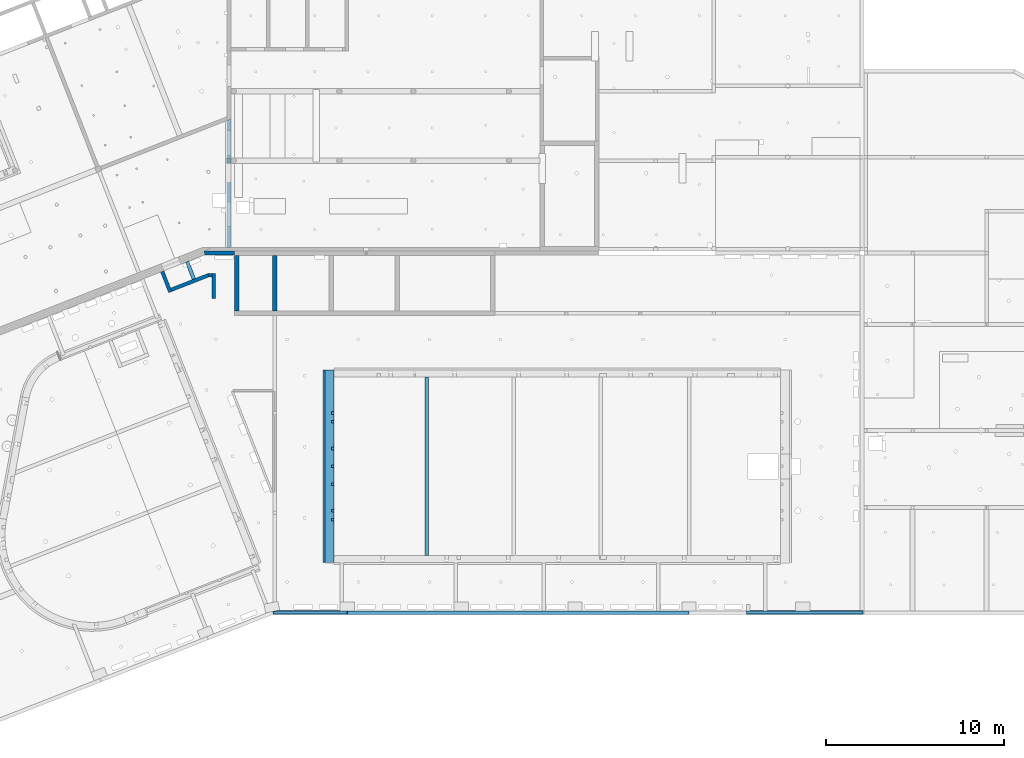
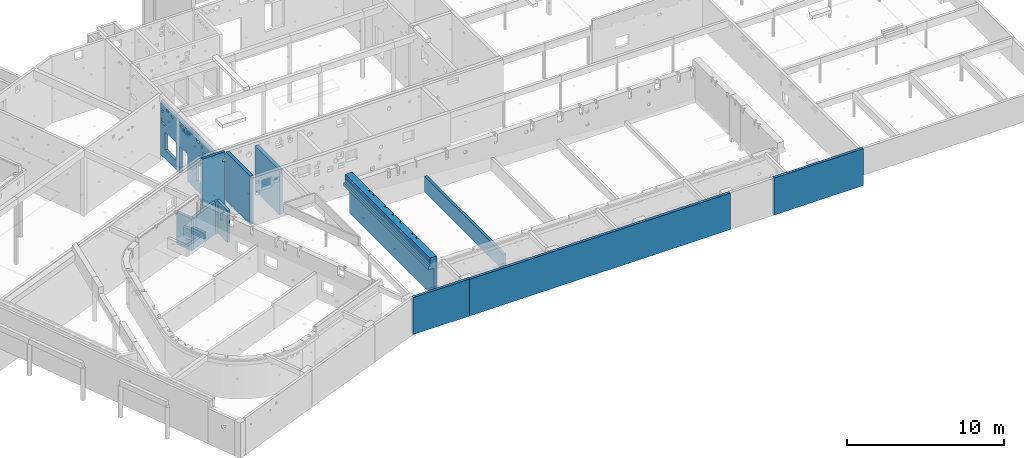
# One storey, part 18 of 28: 13 walls, 26 openings.
"""IFC2X3 building model written with IfcOpenShell, lengths in metres."""

from ifc_helpers import new_model, entity, si_unit, converted_unit, direction, frame, frame_2d, origin, origin_with_axes, place, context, subcontext, project, spatial, polyline, rectangle, outline, extrude, clip, halfspace, bounded_halfspace, material, layer, layer_set, layer_usage, element, save


model = new_model("IFC2X3")

# Units and contexts
model_context = context("Model", 3, precision=1e-05, world=origin(), true_north=direction((-0.407059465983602, -0.913401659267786)))
body_context = subcontext(model_context, "Body", "Model", "MODEL_VIEW")
ifc_project = project(units=[si_unit("LENGTHUNIT", "METRE"), si_unit("AREAUNIT", "SQUARE_METRE"), si_unit("VOLUMEUNIT", "CUBIC_METRE"), si_unit("MASSUNIT", "GRAM", prefix="KILO"), converted_unit("PLANEANGLEUNIT", "DEGREE", entity("IfcPlaneAngleMeasure", 0.0174532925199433), si_unit("PLANEANGLEUNIT", "RADIAN"), dimensions=[0, 0, 0, 0, 0, 0, 0])], contexts=[model_context])

# Site, buildings, storey
site_placement = place(None, origin())
site = spatial("IfcSite", under=ifc_project, at=site_placement, Name="Site", CompositionType="ELEMENT")
building_1_placement = place(site_placement, origin())
building_1 = spatial("IfcBuilding", under=site, at=building_1_placement, Name="Site", CompositionType="COMPLEX")
building_2_placement = place(building_1_placement, origin())
building_2 = spatial("IfcBuilding", under=building_1, at=building_2_placement, Name="Bâtiments", CompositionType="ELEMENT")
storey_placement = place(building_2_placement, frame((0.0, 0.0, -5.3)))
storey = spatial("IfcBuildingStorey", under=building_2, at=storey_placement, Name="SOUS-SOL", CompositionType="ELEMENT", Elevation=-5.3)

# Walls
ifc_material_1 = material(Name="Béton")
ifc_layer_1 = layer(ifc_material_1, 0.25)
ifc_layer_set_1 = layer_set([ifc_layer_1])
ifc_layer_usage_1 = layer_usage(ifc_layer_set_1, "AXIS2", "POSITIVE", -0.25)
wall_1_placement = place(storey_placement, frame((28.3161922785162, -8.60891711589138, 1.4), z_axis=(0.0, 0.0, 1.0), x_axis=(0.0, 1.0, 0.0)))
element("IfcWallStandardCase", 1, at=wall_1_placement, inside=storey, material=ifc_layer_usage_1, context=body_context, shape_type="SweptSolid", body=[
    extrude(outline(polyline([(0.0, -0.25), (3.12002749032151, -0.25), (3.12002749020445, 0.0), (9.94932213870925e-07, 0.0), (0.0, -0.25)])), frame((0.0, 0.25, 0.0), z_axis=(0.0, 0.0, 1.0), x_axis=(1.0, 0.0, 0.0)), (0.0, 0.0, 1.0), 3.76),
])
ifc_material_2 = material(Name="Béton")
ifc_layer_2 = layer(ifc_material_2, 0.199999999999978)
ifc_layer_set_2 = layer_set([ifc_layer_2])
ifc_layer_usage_2 = layer_usage(ifc_layer_set_2, "AXIS2", "POSITIVE", -0.199999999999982)
wall_2_placement = place(storey_placement, frame((38.7813842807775, -12.2993058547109, 2.4), z_axis=(0.0, 0.0, 1.0), x_axis=(0.0, -1.0, 0.0)))
element("IfcWallStandardCase", 2, at=wall_2_placement, inside=storey, material=ifc_layer_usage_2, context=body_context, shape_type="Clipping", body=[
    clip(extrude(rectangle(XDim=10.05, YDim=0.199999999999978, at=frame_2d((5.025, 0.0999999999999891), x_axis=(1.0, 0.0))), origin_with_axes(), (0.0, 0.0, 1.0), 1.26651671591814), halfspace(frame((5.025, 0.0999999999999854, 1.26051671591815), z_axis=(0.0, -0.0598922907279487, -0.998204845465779), x_axis=(0.0, -0.998204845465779, 0.0598922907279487)), True)),
])
ifc_material_3 = material(Name="Béton")
ifc_layer_3 = layer(ifc_material_3, 0.2)
ifc_layer_set_3 = layer_set([ifc_layer_3])
ifc_layer_usage_3 = layer_usage(ifc_layer_set_3, "AXIS2", "POSITIVE", -0.200000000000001)
wall_3_placement = place(storey_placement, frame((53.6049720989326, -25.4449220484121, 2.4), z_axis=(0.0, 0.0, 1.0), x_axis=(-1.0, 0.0, 0.0)))
element("IfcWallStandardCase", 3, at=wall_3_placement, inside=storey, material=ifc_layer_usage_3, context=body_context, shape_type="SweptSolid", body=[
    extrude(outline(polyline([(-19.1965550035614, -0.2), (-4.59005241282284e-07, -0.2), (0.0, 0.0), (-19.1965545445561, 0.0), (-19.1965550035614, -0.2)])), frame((19.1965550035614, 0.2, 0.0), z_axis=(0.0, 0.0, 1.0), x_axis=(1.0, 0.0, 0.0)), (0.0, 0.0, 1.0), 2.85),
])
ifc_material_4 = material(Name="Béton")
wall_4_placement = place(storey_placement, frame((63.4132840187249, -25.4449220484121, 2.4), z_axis=(0.0, 0.0, 1.0), x_axis=(-1.0, 0.0, 0.0)))
element("IfcWall", 4, at=wall_4_placement, inside=storey, material=ifc_material_4, context=body_context, shape_type="SweptSolid", body=[
    extrude(outline(polyline([(-6.57729758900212, -0.2), (-3.56598833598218, -0.2), (-3.56598833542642, -0.199976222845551), (-2.76598833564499, -0.199994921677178), (-2.76598833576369, -0.2), (0.0, -0.2), (-1.27525183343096e-05, 0.0), (-6.57729758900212, 0.0), (-6.57729758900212, -0.2)])), frame((6.57729758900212, 0.2, 0.0), z_axis=(0.0, 0.0, 1.0), x_axis=(1.0, 0.0, 0.0)), (0.0, 0.0, 1.0), 2.88),
    extrude(outline(polyline([(-4.188879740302, -0.2), (-0.186542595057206, -0.2), (0.0, -0.161745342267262), (-0.0580402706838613, -0.0138180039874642), (-0.0228223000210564, 0.0), (-4.18887928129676, 0.0), (-4.188879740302, -0.2)])), frame((33.1937462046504, 0.2, 0.0), z_axis=(0.0, 0.0, 1.0), x_axis=(1.0, 0.0, 0.0)), (0.0, 0.0, 1.0), 2.88),
])

# Wall, openings
ifc_material_5 = material(Name="Mur_Maconnerie")
ifc_layer_4 = layer(ifc_material_5, 0.200000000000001)
ifc_layer_set_4 = layer_set([ifc_layer_4])
ifc_layer_usage_4 = layer_usage(ifc_layer_set_4, "AXIS2", "POSITIVE", -0.2)
wall_5_placement = place(storey_placement, frame((27.6626311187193, 2.10991399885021, 0.5), z_axis=(0.0, 0.0, 1.0), x_axis=(-2.29885815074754e-06, -0.999999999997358, 0.0)))
wall_5 = element("IfcWallStandardCase", 5, at=wall_5_placement, inside=storey, material=ifc_layer_usage_4, context=body_context, shape_type="SweptSolid", body=[
    extrude(outline(polyline([(-7.12880681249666, -1.05694975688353e-12), (-4.59771629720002e-07, -1.0569497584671e-12), (-4.59771630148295e-07, 0.199999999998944), (-7.20727807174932, 0.199999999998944), (-7.12880681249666, -1.05694975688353e-12)])), frame((7.12880681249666, 1.05694975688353e-12, 0.0), z_axis=(0.0, 0.0, 1.0), x_axis=(1.0, 0.0, 0.0)), (0.0, 0.0, 1.0), 4.22),
])
opening_1_placement = place(wall_5_placement, frame((3.45351379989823, 0.200000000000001, 0.0), z_axis=(2.27373675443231e-15, -1.0, 0.0), x_axis=(0.0, 0.0, 1.0)))
element("IfcOpeningElement", 6, at=opening_1_placement, cuts=wall_5, Name="Baie de porte", ObjectType="Opening", context=body_context, shape_type="SweptSolid", body=[
    extrude(outline(polyline([(0.0, 1.03), (2.1, 1.03), (2.1, 0.0), (0.0, 0.0), (0.0, 1.03)])), origin_with_axes(), (0.0, 0.0, 1.0), 0.200000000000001),
])
opening_2_placement = place(wall_5_placement, frame((6.77880635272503, 3.87360282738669e-16, 3.51), z_axis=(4.54747350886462e-15, 1.0, 0.0), x_axis=(0.0, 0.0, 1.0)))
element("IfcOpeningElement", 7, at=opening_2_placement, cuts=wall_5, Name="EL-025", ObjectType="Opening", context=body_context, shape_type="SweptSolid", body=[
    extrude(outline(polyline([(0.0, 0.35), (0.7, 0.35), (0.7, 0.0), (0.0, 0.0), (0.0, 0.35)])), origin_with_axes(), (0.0, 0.0, 1.0), 0.200000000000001),
])
opening_3_placement = place(wall_5_placement, frame((0.299196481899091, 0.199991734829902, 3.4), z_axis=(1.13686837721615e-15, -1.0, 0.0), x_axis=(0.0, 0.0, 1.0)))
element("IfcOpeningElement", 8, at=opening_3_placement, cuts=wall_5, Name="PB-044", ObjectType="Opening", context=body_context, shape_type="SweptSolid", body=[
    extrude(outline(polyline([(0.0, 0.3), (0.25, 0.3), (0.25, 0.0), (0.0, 0.0), (0.0, 0.3)])), origin_with_axes(), (0.0, 0.0, 1.0), 0.200000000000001),
])
opening_4_placement = place(wall_5_placement, frame((5.96929814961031, 0.200000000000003, 0.7), z_axis=(-4.54747350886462e-15, -1.0, 0.0), x_axis=(0.0, 0.0, 1.0)))
element("IfcOpeningElement", 9, at=opening_4_placement, cuts=wall_5, Name="CVC-088", ObjectType="Opening", context=body_context, shape_type="SweptSolid", body=[
    extrude(outline(polyline([(0.0, 1.4), (1.4, 1.4), (1.4, 0.0), (0.0, 0.0), (0.0, 1.4)])), origin_with_axes(), (0.0, 0.0, 1.0), 0.200000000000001),
])
opening_5_placement = place(wall_5_placement, frame((6.59436697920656, 0.199999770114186, 2.39), z_axis=(4.54747350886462e-15, -1.0, 0.0), x_axis=(0.0, 0.0, 1.0)))
element("IfcOpeningElement", 10, at=opening_5_placement, cuts=wall_5, Name="CVC-068", ObjectType="Opening", context=body_context, shape_type="SweptSolid", body=[
    extrude(outline(polyline([(0.0, 1.2), (1.1, 1.2), (1.1, 0.0), (0.0, 0.0), (0.0, 1.2)])), origin_with_axes(), (0.0, 0.0, 1.0), 0.199999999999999),
])
opening_6_placement = place(wall_5_placement, frame((5.3745340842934, 0.200000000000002, 3.65), z_axis=(0.0, 0.0, 1.0), x_axis=(-1.0, 1.70529864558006e-15, 0.0)))
element("IfcOpeningElement", 11, at=opening_6_placement, cuts=wall_5, Name="TE-090", ObjectType="Opening", context=body_context, shape_type="SweptSolid", body=[
    extrude(outline(polyline([(4.59771628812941e-07, -1.70207564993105e-15), (0.200000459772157, 5.42101086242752e-23), (0.200000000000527, 0.200000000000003), (-1.70086302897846e-15, 0.200000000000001), (4.59771628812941e-07, -1.70207564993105e-15)])), origin_with_axes(), (0.0, 0.0, 1.0), 0.2),
])
opening_7_placement = place(wall_5_placement, frame((0.247872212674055, 0.200000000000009, 2.85), z_axis=(-1.15107923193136e-14, -1.0, 0.0), x_axis=(0.0, 0.0, 1.0)))
element("IfcOpeningElement", 12, at=opening_7_placement, cuts=wall_5, Name="TE-033", ObjectType="Opening", context=body_context, shape_type="SweptSolid", body=[
    extrude(outline(polyline([(0.0, 0.1), (0.1, 0.1), (0.1, 0.0), (0.0, 0.0), (0.0, 0.1)])), origin_with_axes(), (0.0, 0.0, 1.0), 0.200000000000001),
])
opening_8_placement = place(wall_5_placement, frame((0.573857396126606, 0.200000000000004, 2.54), z_axis=(3.41060513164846e-15, -1.0, 0.0), x_axis=(0.0, 0.0, 1.0)))
element("IfcOpeningElement", 13, at=opening_8_placement, cuts=wall_5, Name="TE-032", ObjectType="Opening", context=body_context, shape_type="SweptSolid", body=[
    extrude(outline(polyline([(0.0, 0.5), (0.2, 0.5), (0.2, 0.0), (0.0, 0.0), (0.0, 0.5)])), origin_with_axes(), (0.0, 0.0, 1.0), 0.200000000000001),
])
opening_9_placement = place(wall_5_placement, frame((0.217872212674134, 0.200000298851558, 4.08), z_axis=(0.0, 0.0, 1.0), x_axis=(-1.0, 1.16529008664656e-14, 0.0)))
element("IfcOpeningElement", 14, at=opening_9_placement, cuts=wall_5, Name="TE-034", ObjectType="Opening", context=body_context, shape_type="SweptSolid", body=[
    extrude(outline(polyline([(0.0, 0.0), (0.1, -2.71050543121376e-23), (0.1, 0.169089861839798), (0.0878722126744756, 0.2), (7.37257477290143e-21, 0.199999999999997), (0.0, 0.0)])), origin_with_axes(), (0.0, 0.0, 1.0), 0.1),
])
opening_10_placement = place(wall_5_placement, frame((1.03392677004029, 0.199993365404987, 3.82), z_axis=(1.13686837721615e-15, -1.0, 0.0), x_axis=(0.0, 0.0, 1.0)))
element("IfcOpeningElement", 15, at=opening_10_placement, cuts=wall_5, Name="PB-049", ObjectType="Opening", context=body_context, shape_type="SweptSolid", body=[
    extrude(outline(polyline([(0.0, 0.3), (0.2, 0.3), (0.2, 0.0), (0.0, 0.0), (0.0, 0.3)])), origin_with_axes(), (0.0, 0.0, 1.0), 0.200000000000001),
])
opening_11_placement = place(wall_5_placement, frame((1.97385739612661, 0.200000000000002, 0.7), z_axis=(1.13686837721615e-15, -1.0, 0.0), x_axis=(0.0, 0.0, 1.0)))
element("IfcOpeningElement", 16, at=opening_11_placement, cuts=wall_5, Name="CVC-087", ObjectType="Opening", context=body_context, shape_type="SweptSolid", body=[
    extrude(outline(polyline([(0.0, 1.4), (1.4, 1.4), (1.4, 0.0), (0.0, 0.0), (0.0, 1.4)])), origin_with_axes(), (0.0, 0.0, 1.0), 0.200000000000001),
])
opening_12_placement = place(wall_5_placement, frame((1.60862614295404, 0.200000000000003, 3.72), z_axis=(0.0, -1.0, 0.0), x_axis=(0.0, 0.0, 1.0)))
element("IfcOpeningElement", 17, at=opening_12_placement, cuts=wall_5, Name="PB-051", ObjectType="Opening", context=body_context, shape_type="SweptSolid", body=[
    extrude(outline(polyline([(0.0, 0.3), (0.15, 0.3), (0.15, 0.0), (0.0, 0.0), (0.0, 0.3)])), origin_with_axes(), (0.0, 0.0, 1.0), 0.200000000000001),
])
opening_13_placement = place(wall_5_placement, frame((4.96929814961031, 0.2, 3.83), z_axis=(0.0, -1.0, 0.0), x_axis=(0.0, 0.0, 1.0)))
element("IfcOpeningElement", 18, at=opening_13_placement, cuts=wall_5, Name="PB-061", ObjectType="Opening", context=body_context, shape_type="SweptSolid", body=[
    extrude(outline(polyline([(0.0, 0.4), (0.3, 0.4), (0.3, 0.0), (0.0, 0.0), (0.0, 0.4)])), origin_with_axes(), (0.0, 0.0, 1.0), 0.200000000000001),
])
opening_14_placement = place(wall_5_placement, frame((3.01155717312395, 0.2, 4.03), z_axis=(0.0, -1.0, 0.0), x_axis=(0.0, 0.0, 1.0)))
element("IfcOpeningElement", 19, at=opening_14_placement, cuts=wall_5, Name="CVC-088", ObjectType="Opening", context=body_context, shape_type="SweptSolid", body=[
    extrude(outline(polyline([(0.0, 0.6), (0.18, 0.6), (0.18, 0.0), (0.0, 0.0), (0.0, 0.6)])), origin_with_axes(), (0.0, 0.0, 1.0), 0.200000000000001),
])
opening_15_placement = place(wall_5_placement, frame((3.05699664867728, 0.200000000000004, 3.6), z_axis=(6.82121026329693e-15, -1.0, 0.0), x_axis=(0.0, 0.0, 1.0)))
element("IfcOpeningElement", 20, at=opening_15_placement, cuts=wall_5, Name="CVC-066", ObjectType="Opening", context=body_context, shape_type="SweptSolid", body=[
    extrude(outline(polyline([(0.0999999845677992, 0.0), (0.0895471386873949, 0.000547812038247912), (0.0792088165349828, 0.0021852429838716), (0.0690982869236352, 0.00489435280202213), (0.059326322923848, 0.00864545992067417), (0.0499999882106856, 0.0133974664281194), (0.0412214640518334, 0.0190983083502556), (0.0330869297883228, 0.0256855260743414), (0.0256855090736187, 0.0330869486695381), (0.0190982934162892, 0.0412214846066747), (0.013397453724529, 0.0500000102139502), (0.0086454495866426, 0.0593263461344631), (0.00489434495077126, 0.0690983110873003), (0.00218523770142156, 0.0792088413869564), (0.000547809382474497, 0.0895471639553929), (0.0, 0.100000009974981), (0.000547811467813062, 0.11045285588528), (0.00218524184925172, 0.120791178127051), (0.00489435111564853, 0.13090170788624), (0.00864545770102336, 0.140673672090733), (0.0133974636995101, 0.150000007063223), (0.0190983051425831, 0.158778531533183), (0.0256855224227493, 0.166913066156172), (0.0330869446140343, 0.174314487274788), (0.0412214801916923, 0.180901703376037), (0.0500000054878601, 0.186602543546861), (0.0593263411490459, 0.191354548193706), (0.0690983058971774, 0.195105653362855), (0.0792088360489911, 0.197814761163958), (0.0895471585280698, 0.19945219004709), (0.100000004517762, 0.199999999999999), (0.110452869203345, 0.199452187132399), (0.12079119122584, 0.197814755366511), (0.130901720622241, 0.19510564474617), (0.140673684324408, 0.19135453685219), (0.150000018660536, 0.186602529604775), (0.158778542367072, 0.180901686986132), (0.166913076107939, 0.174314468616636), (0.174314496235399, 0.166913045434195), (0.180901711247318, 0.158778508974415), (0.186602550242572, 0.149999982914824), (0.191354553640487, 0.140673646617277), (0.195105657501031, 0.130901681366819), (0.19781476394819, 0.120791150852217), (0.199452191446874, 0.110452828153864), (0.199999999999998, 0.0999999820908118), (0.199452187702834, 0.0895471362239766), (0.197814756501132, 0.0792088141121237), (0.195105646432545, 0.0690982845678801), (0.191354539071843, 0.0593263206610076), (0.186602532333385, 0.049999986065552), (0.180901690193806, 0.0412214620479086), (0.174314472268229, 0.0330869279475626), (0.1669130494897, 0.0256855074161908), (0.158778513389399, 0.0190982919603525), (0.149999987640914, 0.0133974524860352), (0.140673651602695, 0.00864544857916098), (0.130901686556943, 0.00489434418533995), (0.120791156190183, 0.00218523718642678), (0.110452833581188, 0.000547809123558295), (0.0999999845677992, 0.0)])), origin_with_axes(), (0.0, 0.0, 1.0), 0.200000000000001),
])
opening_16_placement = place(wall_5_placement, frame((2.93682054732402, 0.19800939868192, 3.72), z_axis=(-2.27373675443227e-15, -1.0, 0.0), x_axis=(0.0, 0.0, 1.0)))
element("IfcOpeningElement", 21, at=opening_16_placement, cuts=wall_5, Name="PB-054", ObjectType="Opening", context=body_context, shape_type="SweptSolid", body=[
    extrude(outline(polyline([(0.0, 0.449999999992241), (0.15, 0.449999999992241), (0.15, 0.0), (0.0, 0.0), (0.0, 0.449999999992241)])), origin_with_axes(), (0.0, 0.0, 1.0), 0.200000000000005),
])
opening_17_placement = place(wall_5_placement, frame((3.35198130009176, 0.200000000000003, 4.01), z_axis=(6.82121026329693e-15, -1.0, 0.0), x_axis=(0.0, 0.0, 1.0)))
element("IfcOpeningElement", 22, at=opening_17_placement, cuts=wall_5, Name="CVC-067", ObjectType="Opening", context=body_context, shape_type="SweptSolid", body=[
    extrude(outline(polyline([(0.0999999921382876, 0.0), (0.089547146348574, 0.000547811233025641), (0.0792088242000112, 0.00218524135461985), (0.069098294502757, 0.00489435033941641), (0.0593263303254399, 0.00864545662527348), (0.0499999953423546, 0.0133974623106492), (0.0412214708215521, 0.0190983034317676), (0.0330869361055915, 0.0256855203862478), (0.0256855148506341, 0.0330869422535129), (0.0190982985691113, 0.0412214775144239), (0.0133974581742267, 0.0500000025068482), (0.00864545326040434, 0.0593263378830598), (0.00489434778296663, 0.0690983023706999), (0.00218523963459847, 0.0792088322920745), (0.000547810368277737, 0.089547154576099), (0.0, 0.100000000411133), (0.000547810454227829, 0.110452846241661), (0.00218523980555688, 0.120791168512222), (0.00489434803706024, 0.130901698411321), (0.0086454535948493, 0.140673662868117), (0.0133974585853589, 0.149999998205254), (0.0190982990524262, 0.158778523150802), (0.0256855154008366, 0.166913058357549), (0.033086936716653, 0.174314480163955), (0.0412214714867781, 0.180901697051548), (0.0499999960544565, 0.186602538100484), (0.059326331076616, 0.191354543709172), (0.069098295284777, 0.195105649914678), (0.0792088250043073, 0.197814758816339), (0.089547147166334, 0.199452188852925), (0.0999999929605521, 0.200000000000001), (0.110452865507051, 0.199452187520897), (0.120791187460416, 0.197814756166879), (0.13090171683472, 0.195105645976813), (0.14067368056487, 0.191354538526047), (0.150000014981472, 0.186602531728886), (0.158778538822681, 0.180901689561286), (0.166913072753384, 0.174314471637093), (0.174314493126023, 0.16691304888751), (0.180901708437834, 0.158778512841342), (0.186602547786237, 0.149999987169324), (0.191354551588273, 0.14067365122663), (0.195105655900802, 0.130901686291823), (0.197814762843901, 0.120791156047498), (0.199452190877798, 0.110452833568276), (0.199999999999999, 0.099999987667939), (0.199452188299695, 0.0895471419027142), (0.197814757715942, 0.0792088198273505), (0.195105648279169, 0.0690982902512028), (0.191354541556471, 0.0593263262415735), (0.186602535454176, 0.0499999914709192), (0.180901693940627, 0.041221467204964), (0.174314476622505, 0.0330869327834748), (0.16691305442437, 0.0256855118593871), (0.158778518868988, 0.0190982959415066), (0.149999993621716, 0.0133974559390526), (0.140673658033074, 0.00864545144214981), (0.130901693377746, 0.00489434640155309), (0.120791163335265, 0.00218523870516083), (0.110452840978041, 0.000547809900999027), (0.0999999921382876, 0.0)])), origin_with_axes(), (0.0, 0.0, 1.0), 0.200000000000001),
])

# Wall, opening
ifc_material_6 = material(Name="Béton")
ifc_layer_5 = layer(ifc_material_6, 0.200000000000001)
ifc_layer_set_5 = layer_set([ifc_layer_5])
ifc_layer_usage_5 = layer_usage(ifc_layer_set_5, "AXIS2", "POSITIVE", -0.200000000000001)
wall_6_placement = place(storey_placement, frame((26.3860323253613, -5.43888962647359, 0.0), z_axis=(0.0, 0.0, 1.0), x_axis=(1.0, 4.68204438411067e-10, 0.0)))
wall_6 = element("IfcWallStandardCase", 23, at=wall_6_placement, inside=storey, material=ifc_layer_usage_5, context=body_context, shape_type="SweptSolid", body=[
    extrude(outline(polyline([(0.0378317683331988, -1.7713001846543e-11), (1.71799172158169, -1.77130018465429e-11), (1.71799172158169, 0.199999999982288), (9.36408876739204e-11, 0.199999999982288), (0.0730497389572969, 0.0138180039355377), (0.0378317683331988, -1.7713001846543e-11)])), frame((-0.0378317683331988, 1.7713001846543e-11, 0.0), z_axis=(0.0, 0.0, 1.0), x_axis=(1.0, 0.0, 0.0)), (0.0, 0.0, 1.0), 5.16),
])
opening_18_placement = place(wall_6_placement, frame((1.69564683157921, 0.199999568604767, 4.43), z_axis=(-2.15738232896e-06, -0.999999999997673, 0.0), x_axis=(0.0, 0.0, 1.0)))
element("IfcOpeningElement", 24, at=opening_18_placement, cuts=wall_6, Name="TE-035", ObjectType="Opening", context=body_context, shape_type="SweptSolid", body=[
    extrude(outline(polyline([(0.0, 0.2), (0.2, 0.2), (0.2, 0.0), (0.0, 0.0), (0.0, 0.2)])), origin_with_axes(), (0.0, 0.0, 1.0), 0.200000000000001),
])

# Walls
ifc_material_7 = material(Name="Béton")
ifc_layer_6 = layer(ifc_material_7, 0.2)
ifc_layer_set_6 = layer_set([ifc_layer_6])
ifc_layer_usage_6 = layer_usage(ifc_layer_set_6, "AXIS2", "POSITIVE", 0.0)
wall_7_placement = place(storey_placement, frame((24.5567708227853, -7.49585591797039, 0.0), z_axis=(0.0, 0.0, 1.0), x_axis=(-0.363688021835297, 0.931520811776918, 0.0)))
element("IfcWallStandardCase", 25, at=wall_7_placement, inside=storey, material=ifc_layer_usage_6, context=body_context, shape_type="SweptSolid", body=[
    extrude(outline(polyline([(-0.164857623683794, -0.622252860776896), (1.081859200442, -0.622252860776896), (1.08152400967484, -0.422252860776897), (-0.164857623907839, -0.422252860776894), (-0.164857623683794, -0.622252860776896)])), frame((0.164857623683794, 0.622252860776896, 0.0), z_axis=(0.0, 0.0, 1.0), x_axis=(1.0, 0.0, 0.0)), (0.0, 0.0, 1.0), 2.5),
])
ifc_material_8 = material(Name="Béton")
ifc_layer_7 = layer(ifc_material_8, 0.200000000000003)
ifc_layer_set_7 = layer_set([ifc_layer_7])
ifc_layer_usage_7 = layer_usage(ifc_layer_set_7, "AXIS2", "POSITIVE", 0.0)
wall_8_placement = place(storey_placement, frame((26.5826252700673, -6.49021118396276, 0.0), z_axis=(0.0, 0.0, 1.0), x_axis=(-0.931520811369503, -0.363688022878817, 0.0)))
element("IfcWallStandardCase", 26, at=wall_8_placement, inside=storey, material=ifc_layer_usage_7, context=body_context, shape_type="SweptSolid", body=[
    extrude(outline(polyline([(-2.32062311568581, -0.173546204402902), (-0.0677565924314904, -0.173546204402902), (-0.0677565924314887, 0.0264537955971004), (-2.28296408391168, 0.0264537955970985), (-2.32062311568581, -0.173546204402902)])), frame((2.32062311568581, 0.173546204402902, 0.0), z_axis=(0.0, 0.0, 1.0), x_axis=(1.0, 0.0, 0.0)), (0.0, 0.0, 1.0), 2.5),
])
ifc_material_9 = material(Name="Béton")
ifc_layer_8 = layer(ifc_material_9, 0.200000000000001)
ifc_layer_set_8 = layer_set([ifc_layer_8])
ifc_layer_usage_8 = layer_usage(ifc_layer_set_8, "AXIS2", "POSITIVE", 0.0)
wall_9_placement = place(storey_placement, frame((26.8161688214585, -6.49021305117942, 0.0), z_axis=(0.0, 0.0, 1.0), x_axis=(-0.999999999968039, 7.99515401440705e-06, 0.0)))
element("IfcWallStandardCase", 27, at=wall_9_placement, inside=storey, material=ifc_layer_usage_8, context=body_context, shape_type="SweptSolid", body=[
    extrude(outline(polyline([(-0.233541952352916, -0.200001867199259), (1.59904573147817e-06, -0.200001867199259), (-0.0376574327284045, -1.86719925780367e-06), (-0.233541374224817, -1.86719925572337e-06), (-0.233541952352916, -0.200001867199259)])), frame((0.233541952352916, 0.200001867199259, 0.0), z_axis=(0.0, 0.0, 1.0), x_axis=(1.0, 0.0, 0.0)), (0.0, 0.0, 1.0), 2.5),
])
ifc_material_10 = material(Name="Béton")
ifc_layer_9 = layer(ifc_material_10, 0.200000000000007)
ifc_layer_set_9 = layer_set([ifc_layer_9])
ifc_layer_usage_9 = layer_usage(ifc_layer_set_9, "AXIS2", "POSITIVE", 0.0)
wall_10_placement = place(storey_placement, frame((25.882181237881, -6.76368130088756, 0.0), z_axis=(0.0, 0.0, 1.0), x_axis=(-0.363688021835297, 0.931520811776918, 0.0)))
element("IfcWallStandardCase", 28, at=wall_10_placement, inside=storey, material=ifc_layer_usage_9, context=body_context, shape_type="SweptSolid", body=[
    extrude(outline(polyline([(-0.13874678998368, -0.555374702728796), (0.91056294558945, -0.555374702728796), (0.91022775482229, -0.355374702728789), (-0.138746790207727, -0.3553747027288), (-0.13874678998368, -0.555374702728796)])), frame((0.13874678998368, 0.555374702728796, 0.0), z_axis=(0.0, 0.0, 1.0), x_axis=(1.0, 0.0, 0.0)), (0.0, 0.0, 1.0), 0.5),
])
ifc_material_11 = material(Name="Béton")
ifc_layer_10 = layer(ifc_material_11, 0.19999999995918)
ifc_layer_set_10 = layer_set([ifc_layer_10])
ifc_layer_usage_10 = layer_usage(ifc_layer_set_10, "AXIS2", "POSITIVE", 0.0)
wall_11_placement = place(storey_placement, frame((27.0161861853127, -7.88883419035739, 0.0), z_axis=(0.0, 0.0, 1.0), x_axis=(-1.24150006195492e-05, 0.999999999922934, 0.0)))
element("IfcWallStandardCase", 29, at=wall_11_placement, inside=storey, material=ifc_layer_usage_10, context=body_context, shape_type="SweptSolid", body=[
    extrude(outline(polyline([(-2.4832427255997e-06, -0.200019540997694), (1.39861694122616, -0.200019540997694), (1.39862102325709, -1.95410385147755e-05), (1.19862113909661, -1.4880882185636e-05), (2.17691630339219e-06, -1.95410519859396e-05), (-2.4832427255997e-06, -0.200019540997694)])), frame((2.4832427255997e-06, 0.200019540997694, 0.0), z_axis=(0.0, 0.0, 1.0), x_axis=(1.0, 0.0, 0.0)), (0.0, 0.0, 1.0), 2.5),
])

# Wall, openings
ifc_material_12 = material(Name="Béton")
ifc_layer_11 = layer(ifc_material_12, 0.199999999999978)
ifc_material_13 = material(Name="Béton")
ifc_layer_12 = layer(ifc_material_13, 0.31)
ifc_material_14 = material(Name="Béton")
ifc_layer_13 = layer(ifc_material_14, 0.11)
ifc_layer_set_11 = layer_set([ifc_layer_11, ifc_layer_12, ifc_layer_13])
ifc_layer_usage_11 = layer_usage(ifc_layer_set_11, "AXIS2", "POSITIVE", -0.199999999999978)
wall_12_placement = place(storey_placement, frame((33.6733842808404, -22.7293058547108, 2.4), z_axis=(0.0, 0.0, 1.0), x_axis=(0.0, 1.0, 0.0)))
wall_12 = element("IfcWallStandardCase", 30, at=wall_12_placement, inside=storey, material=ifc_layer_usage_11, context=body_context, shape_type="Clipping", body=[
    clip(clip(extrude(rectangle(XDim=10.81, YDim=0.619999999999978, at=frame_2d((5.40499999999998, 0.309999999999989), x_axis=(1.0, 0.0))), origin_with_axes(), (0.0, 0.0, 1.0), 3.16), bounded_halfspace(frame((5.40499999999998, 0.409999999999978, 2.29), z_axis=(0.0, 0.0, 1.0), x_axis=(1.0, 0.0, 0.0)), True, origin_with_axes(), polyline([(0.0, 0.199999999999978), (10.81, 0.199999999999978), (10.81, 0.619999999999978), (0.0, 0.619999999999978), (0.0, 0.199999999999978)]))), bounded_halfspace(frame((5.40499999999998, 0.564999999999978, 2.55), z_axis=(0.0, 0.0, -1.0), x_axis=(1.0, 0.0, 0.0)), True, origin_with_axes(), polyline([(0.0, 0.509999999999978), (10.81, 0.509999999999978), (10.81, 0.619999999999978), (0.0, 0.619999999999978), (0.0, 0.509999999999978)]))),
])
opening_19_placement = place(wall_12_placement, frame((0.0799999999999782, 0.0, 3.15)))
element("IfcOpeningElement", 31, at=opening_19_placement, cuts=wall_12, Name="Percement dans mur", ObjectType="Opening", context=body_context, shape_type="SweptSolid", body=[
    extrude(outline(polyline([(0.0, 0.0), (10.65, 0.0), (10.65, 0.1), (0.0, 0.1), (0.0, 0.0)])), origin_with_axes(), (0.0, 0.0, 1.0), 0.01),
])
opening_20_placement = place(wall_12_placement, frame((2.32999999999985, 0.0, 2.8), z_axis=(0.0, 1.0, 0.0), x_axis=(0.0, 0.0, 1.0)))
element("IfcOpeningElement", 32, at=opening_20_placement, cuts=wall_12, Name="Percement dans mur", ObjectType="Opening", context=body_context, shape_type="SweptSolid", body=[
    extrude(outline(polyline([(0.0, 0.15), (0.36, 0.15), (0.36, 0.0), (0.0, 0.0), (0.0, 0.15)])), origin_with_axes(), (0.0, 0.0, 1.0), 0.15),
])
opening_21_placement = place(wall_12_placement, frame((2.82999999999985, 0.0, 2.8), z_axis=(0.0, 1.0, 0.0), x_axis=(0.0, 0.0, 1.0)))
element("IfcOpeningElement", 33, at=opening_21_placement, cuts=wall_12, Name="Percement dans mur", ObjectType="Opening", context=body_context, shape_type="SweptSolid", body=[
    extrude(outline(polyline([(0.0, 0.15), (0.36, 0.15), (0.36, 0.0), (0.0, 0.0), (0.0, 0.15)])), origin_with_axes(), (0.0, 0.0, 1.0), 0.15),
])
opening_22_placement = place(wall_12_placement, frame((4.32999999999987, 0.0, 2.8), z_axis=(0.0, 1.0, 0.0), x_axis=(0.0, 0.0, 1.0)))
element("IfcOpeningElement", 34, at=opening_22_placement, cuts=wall_12, Name="Percement dans mur", ObjectType="Opening", context=body_context, shape_type="SweptSolid", body=[
    extrude(outline(polyline([(0.0, 0.15), (0.36, 0.15), (0.36, 0.0), (0.0, 0.0), (0.0, 0.15)])), origin_with_axes(), (0.0, 0.0, 1.0), 0.15),
])
opening_23_placement = place(wall_12_placement, frame((5.32999999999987, 0.0, 2.8), z_axis=(0.0, 1.0, 0.0), x_axis=(0.0, 0.0, 1.0)))
element("IfcOpeningElement", 35, at=opening_23_placement, cuts=wall_12, Name="Percement dans mur", ObjectType="Opening", context=body_context, shape_type="SweptSolid", body=[
    extrude(outline(polyline([(0.0, 0.15), (0.36, 0.15), (0.36, 0.0), (0.0, 0.0), (0.0, 0.15)])), origin_with_axes(), (0.0, 0.0, 1.0), 0.15),
])
opening_24_placement = place(wall_12_placement, frame((6.32999999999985, 0.0, 2.8), z_axis=(0.0, 1.0, 0.0), x_axis=(0.0, 0.0, 1.0)))
element("IfcOpeningElement", 36, at=opening_24_placement, cuts=wall_12, Name="Percement dans mur", ObjectType="Opening", context=body_context, shape_type="SweptSolid", body=[
    extrude(outline(polyline([(0.0, 0.149999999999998), (0.36, 0.149999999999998), (0.36, 0.0), (0.0, 0.0), (0.0, 0.149999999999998)])), origin_with_axes(), (0.0, 0.0, 1.0), 0.15),
])
opening_25_placement = place(wall_12_placement, frame((7.82999999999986, 0.0, 2.8), z_axis=(0.0, 1.0, 0.0), x_axis=(0.0, 0.0, 1.0)))
element("IfcOpeningElement", 37, at=opening_25_placement, cuts=wall_12, Name="Percement dans mur", ObjectType="Opening", context=body_context, shape_type="SweptSolid", body=[
    extrude(outline(polyline([(0.0, 0.15), (0.36, 0.15), (0.36, 0.0), (0.0, 0.0), (0.0, 0.15)])), origin_with_axes(), (0.0, 0.0, 1.0), 0.15),
])
opening_26_placement = place(wall_12_placement, frame((8.32999999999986, 0.0, 2.8), z_axis=(0.0, 1.0, 0.0), x_axis=(0.0, 0.0, 1.0)))
element("IfcOpeningElement", 38, at=opening_26_placement, cuts=wall_12, Name="Percement dans mur", ObjectType="Opening", context=body_context, shape_type="SweptSolid", body=[
    extrude(outline(polyline([(0.0, 0.15), (0.36, 0.15), (0.36, 0.0), (0.0, 0.0), (0.0, 0.15)])), origin_with_axes(), (0.0, 0.0, 1.0), 0.15),
])

# Wall
ifc_material_15 = material(Name="Béton")
ifc_layer_14 = layer(ifc_material_15, 0.25)
ifc_layer_set_12 = layer_set([ifc_layer_14])
ifc_layer_usage_12 = layer_usage(ifc_layer_set_12, "AXIS2", "POSITIVE", -0.125)
wall_13_placement = place(storey_placement, frame((30.4688861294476, -8.60892588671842, 1.4), z_axis=(0.0, 0.0, 1.0), x_axis=(0.0, 1.0, 0.0)))
element("IfcWallStandardCase", 39, at=wall_13_placement, inside=storey, material=ifc_layer_usage_12, context=body_context, shape_type="SweptSolid", body=[
    extrude(outline(polyline([(0.0, -0.25), (3.12003626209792, -0.25), (3.12003626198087, 0.0), (1.01612605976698e-06, 0.0), (0.0, -0.25)])), frame((0.0, 0.25, 0.0), z_axis=(0.0, 0.0, 1.0), x_axis=(1.0, 0.0, 0.0)), (0.0, 0.0, 1.0), 3.51),
])

save(model, "model.ifc")
